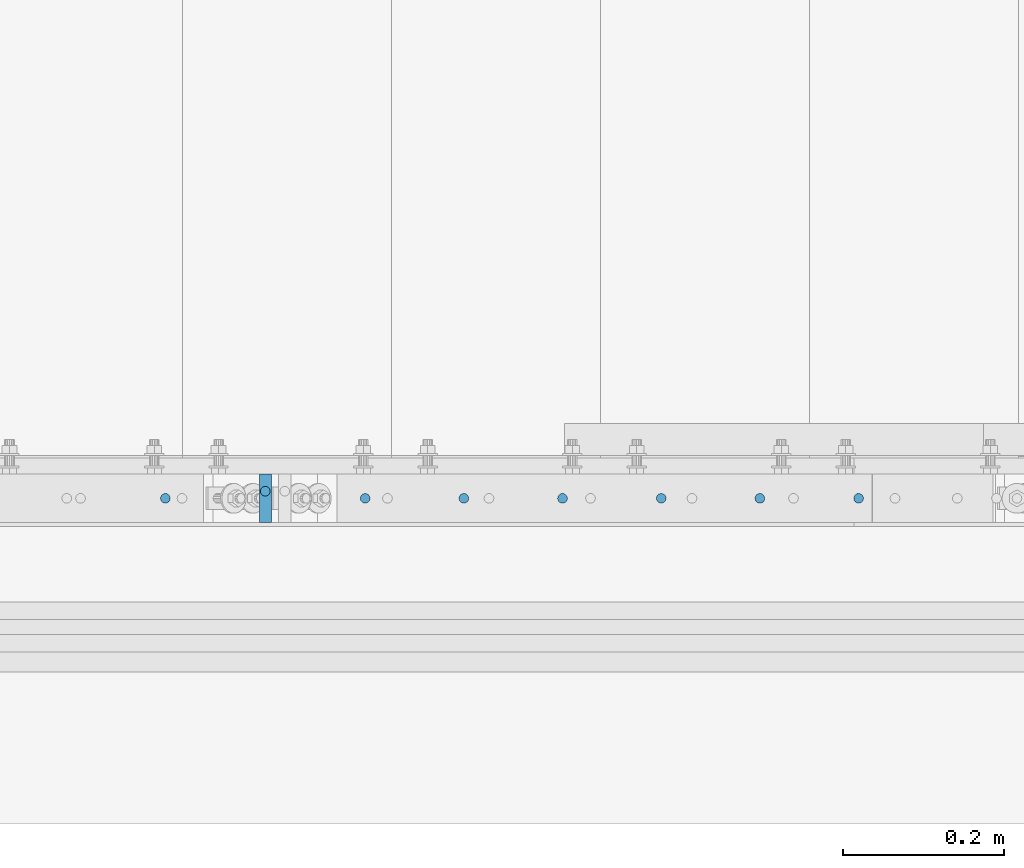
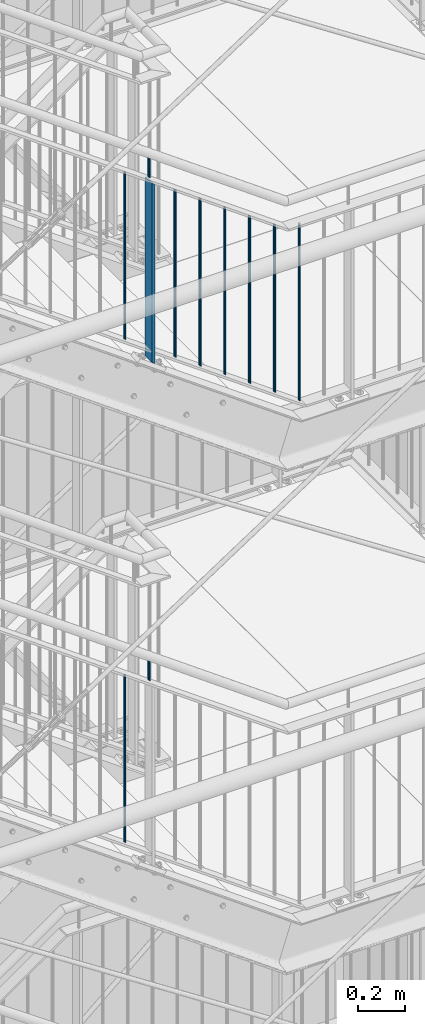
# One storey, part 39 of 825: 11 columns.
"""IFC2X3 building model written with IfcOpenShell, lengths in millimetres."""

from ifc_helpers import new_model, entity, si_unit, converted_unit, frame, origin, origin_with_axes, origin_2d, place, context, project, spatial, rectangle, circle, extrude, clip, halfspace, material, element, save


model = new_model("IFC2X3")

# Units and contexts
model_context = context("Model", 3, precision=1e-09, world=origin_with_axes())
ifc_project = project(units=[si_unit("LENGTHUNIT", "METRE", prefix="MILLI"), si_unit("AREAUNIT", "SQUARE_METRE"), si_unit("VOLUMEUNIT", "CUBIC_METRE"), converted_unit("PLANEANGLEUNIT", "DEGREE", entity("IfcPlaneAngleMeasure", 0.01745329), si_unit("PLANEANGLEUNIT", "RADIAN"), dimensions=[0, 0, 0, 0, 0, 0, 0])], contexts=[model_context])

# Site, building, storey
site_placement = place(None, origin_with_axes())
site = spatial("IfcSite", under=ifc_project, at=site_placement, Name="Cnopf'sche Kinderklinik", CompositionType="ELEMENT")
building_placement = place(site_placement, origin_with_axes())
building = spatial("IfcBuilding", under=site, at=building_placement, Name="Struktur 1", CompositionType="ELEMENT")
storey_placement = place(building_placement, origin_with_axes())
storey = spatial("IfcBuildingStorey", under=building, at=storey_placement, Name="Default Storey", CompositionType="ELEMENT", Elevation=0.0)

# Columns
ifc_material = material(Name="S235JR")
column_1_placement = place(None, frame((6255.541974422, 4526.736971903, 10227.277833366), z_axis=(0.0, 0.0, 1.0), x_axis=(-1.0, 0.0, 0.0)))
element("IfcColumn", 1, at=column_1_placement, inside=storey, material=ifc_material, Name="Railing_Picket_Stair#69", ObjectType="Railing_Picket_Stair#69", context=model_context, shape_type="Clipping", body=[
    clip(clip(extrude(circle(Radius=6.0, at=origin_2d()), origin(), (0.0, 0.0, -1.0), 896.05799959), halfspace(frame((-743.344090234, 4526.736971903, -547.967318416), z_axis=(0.585945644, 0.0, -0.810350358), x_axis=(0.0, 1.0, 0.0)), True)), halfspace(frame((-327.821699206, 4526.736971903, -1122.625944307), z_axis=(-0.585945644, 0.0, 0.810350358), x_axis=(0.0, -1.0, 0.0)), True)),
])
column_2_placement = place(None, frame((6379.791974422, 4535.536971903, 10249.775866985), z_axis=(0.0, 0.0, 1.0), x_axis=(0.0, 1.0, 0.0)))
element("IfcColumn", 2, at=column_2_placement, inside=storey, material=ifc_material, Name="Bar#10", ObjectType="Bar#10", context=model_context, shape_type="Clipping", body=[
    clip(clip(extrude(circle(Radius=6.0, at=origin_2d()), origin(), (0.0, 0.0, -1.0), 120.942253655), halfspace(frame((-4535.536971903, -672.435672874, -496.695078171), z_axis=(0.0, 0.585945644, -0.810350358), x_axis=(-1.0, 0.0, 0.0)), True)), halfspace(frame((-4535.536971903, -624.954718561, -562.360227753), z_axis=(0.0, -0.585945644, 0.810350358), x_axis=(1.0, 0.0, 0.0)), True)),
])
column_3_placement = place(None, frame((6379.791974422, 4526.736971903, 12793.695182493), z_axis=(0.0, 0.0, 1.0), x_axis=(-1.0, 0.0, 0.0)))
element("IfcColumn", 3, at=column_3_placement, inside=storey, material=ifc_material, Name="Railing_Post_Stair#10", ObjectType="Railing_Post_Stair#10", context=model_context, shape_type="Clipping", body=[
    clip(clip(extrude(rectangle(XDim=15.0, YDim=60.0, at=origin_2d()), origin(), (0.0, 0.0, -1.0), 1013.129684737), halfspace(frame((-1858.122822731, 4526.736971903, -1379.150124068), z_axis=(0.585213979, 0.0, -0.810878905), x_axis=(0.0, 1.0, 0.0)), True)), halfspace(frame((-1413.54927835, 4526.736971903, -1995.156101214), z_axis=(-0.585213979, 0.0, 0.810878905), x_axis=(0.0, -1.0, 0.0)), True)),
])
column_4_placement = place(None, frame((7117.792093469, 4526.736971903, 12274.3000003), z_axis=(0.0, 0.0, 1.0), x_axis=(-1.0, 0.0, 0.0)))
element("IfcColumn", 4, at=column_4_placement, inside=storey, material=ifc_material, Name="Railing_Picket_Stair#63", ObjectType="Railing_Picket_Stair#63", context=model_context, shape_type="Clipping", body=[
    clip(extrude(circle(Radius=6.0, at=origin_2d()), origin(), (0.0, 0.0, -1.0), 937.018910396), halfspace(frame((-704.809858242, 4526.736971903, -1435.216973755), z_axis=(-0.585213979, 0.0, 0.810878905), x_axis=(0.0, -1.0, 0.0)), True)),
])
column_5_placement = place(None, frame((6995.04206966, 4526.736971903, 12321.995937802), z_axis=(0.0, 0.0, 1.0), x_axis=(-1.0, 0.0, 0.0)))
element("IfcColumn", 5, at=column_5_placement, inside=storey, material=ifc_material, Name="Railing_Picket_Stair#64", ObjectType="Railing_Picket_Stair#64", context=model_context, shape_type="Clipping", body=[
    clip(clip(extrude(circle(Radius=6.0, at=origin_2d()), origin(), (0.0, 0.0, -1.0), 896.125751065), halfspace(frame((-1242.872727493, 4526.736971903, -907.450879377), z_axis=(0.585213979, 0.0, -0.810878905), x_axis=(0.0, 1.0, 0.0)), True)), halfspace(frame((-827.559882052, 4526.736971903, -1482.912911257), z_axis=(-0.585213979, 0.0, 0.810878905), x_axis=(0.0, -1.0, 0.0)), True)),
])
column_6_placement = place(None, frame((6872.29204585, 4526.736971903, 12410.585034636), z_axis=(0.0, 0.0, 1.0), x_axis=(-1.0, 0.0, 0.0)))
element("IfcColumn", 6, at=column_6_placement, inside=storey, material=ifc_material, Name="Railing_Picket_Stair#65", ObjectType="Railing_Picket_Stair#65", context=model_context, shape_type="Clipping", body=[
    clip(clip(extrude(circle(Radius=6.0, at=origin_2d()), origin(), (0.0, 0.0, -1.0), 896.125751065), halfspace(frame((-1365.622751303, 4526.736971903, -996.039976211), z_axis=(0.585213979, 0.0, -0.810878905), x_axis=(0.0, 1.0, 0.0)), True)), halfspace(frame((-950.309905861, 4526.736971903, -1571.50200809), z_axis=(-0.585213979, 0.0, 0.810878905), x_axis=(0.0, -1.0, 0.0)), True)),
])
column_7_placement = place(None, frame((6749.542022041, 4526.736971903, 12499.174131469), z_axis=(0.0, 0.0, 1.0), x_axis=(-1.0, 0.0, 0.0)))
element("IfcColumn", 7, at=column_7_placement, inside=storey, material=ifc_material, Name="Railing_Picket_Stair#66", ObjectType="Railing_Picket_Stair#66", context=model_context, shape_type="Clipping", body=[
    clip(clip(extrude(circle(Radius=6.0, at=origin_2d()), origin(), (0.0, 0.0, -1.0), 896.125751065), halfspace(frame((-1488.372775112, 4526.736971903, -1084.629073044), z_axis=(0.585213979, 0.0, -0.810878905), x_axis=(0.0, 1.0, 0.0)), True)), halfspace(frame((-1073.059929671, 4526.736971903, -1660.091104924), z_axis=(-0.585213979, 0.0, 0.810878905), x_axis=(0.0, -1.0, 0.0)), True)),
])
column_8_placement = place(None, frame((6626.791998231, 4526.736971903, 12587.763228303), z_axis=(0.0, 0.0, 1.0), x_axis=(-1.0, 0.0, 0.0)))
element("IfcColumn", 8, at=column_8_placement, inside=storey, material=ifc_material, Name="Railing_Picket_Stair#67", ObjectType="Railing_Picket_Stair#67", context=model_context, shape_type="Clipping", body=[
    clip(clip(extrude(circle(Radius=6.0, at=origin_2d()), origin(), (0.0, 0.0, -1.0), 896.125751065), halfspace(frame((-1611.122798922, 4526.736971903, -1173.218169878), z_axis=(0.585213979, 0.0, -0.810878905), x_axis=(0.0, 1.0, 0.0)), True)), halfspace(frame((-1195.80995348, 4526.736971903, -1748.680201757), z_axis=(-0.585213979, 0.0, 0.810878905), x_axis=(0.0, -1.0, 0.0)), True)),
])
column_9_placement = place(None, frame((6504.041974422, 4526.736971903, 12676.352325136), z_axis=(0.0, 0.0, 1.0), x_axis=(-1.0, 0.0, 0.0)))
element("IfcColumn", 9, at=column_9_placement, inside=storey, material=ifc_material, Name="Railing_Picket_Stair#68", ObjectType="Railing_Picket_Stair#68", context=model_context, shape_type="Clipping", body=[
    clip(clip(extrude(circle(Radius=6.0, at=origin_2d()), origin(), (0.0, 0.0, -1.0), 896.125751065), halfspace(frame((-1733.872822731, 4526.736971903, -1261.807266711), z_axis=(0.585213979, 0.0, -0.810878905), x_axis=(0.0, 1.0, 0.0)), True)), halfspace(frame((-1318.55997729, 4526.736971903, -1837.269298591), z_axis=(-0.585213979, 0.0, 0.810878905), x_axis=(0.0, -1.0, 0.0)), True)),
])
column_10_placement = place(None, frame((6255.541974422, 4526.736971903, 12855.695594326), z_axis=(0.0, 0.0, 1.0), x_axis=(-1.0, 0.0, 0.0)))
element("IfcColumn", 10, at=column_10_placement, inside=storey, material=ifc_material, Name="Railing_Picket_Stair#69", ObjectType="Railing_Picket_Stair#69", context=model_context, shape_type="Clipping", body=[
    clip(clip(extrude(circle(Radius=6.0, at=origin_2d()), origin(), (0.0, 0.0, -1.0), 896.125751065), halfspace(frame((-1982.372822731, 4526.736971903, -1441.150535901), z_axis=(0.585213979, 0.0, -0.810878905), x_axis=(0.0, 1.0, 0.0)), True)), halfspace(frame((-1567.059977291, 4526.736971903, -2016.612567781), z_axis=(-0.585213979, 0.0, 0.810878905), x_axis=(0.0, -1.0, 0.0)), True)),
])
column_11_placement = place(None, frame((6379.791974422, 4535.536971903, 12878.356257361), z_axis=(0.0, 0.0, 1.0), x_axis=(0.0, 1.0, 0.0)))
element("IfcColumn", 11, at=column_11_placement, inside=storey, material=ifc_material, Name="Bar#10", ObjectType="Bar#10", context=model_context, shape_type="Clipping", body=[
    clip(clip(extrude(circle(Radius=6.0, at=origin_2d()), origin(), (0.0, 0.0, -1.0), 120.928603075), halfspace(frame((-4535.536971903, -1911.428729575, -1389.94995), z_axis=(0.0, 0.585213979, -0.810878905), x_axis=(-1.0, 0.0, 0.0)), True)), halfspace(frame((-4535.536971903, -1863.976132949, -1455.700788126), z_axis=(0.0, -0.585213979, 0.810878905), x_axis=(1.0, 0.0, 0.0)), True)),
])

save(model, "model.ifc")
